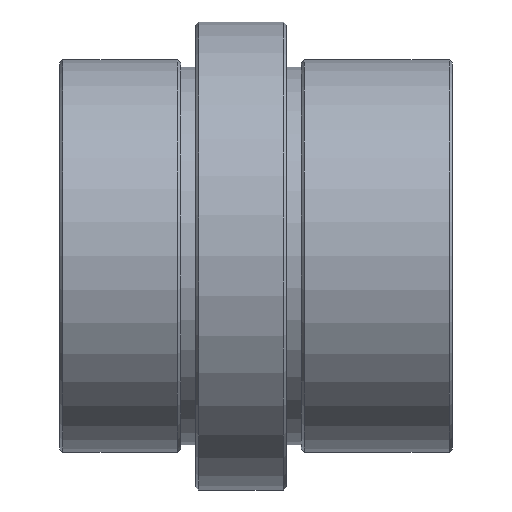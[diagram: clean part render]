
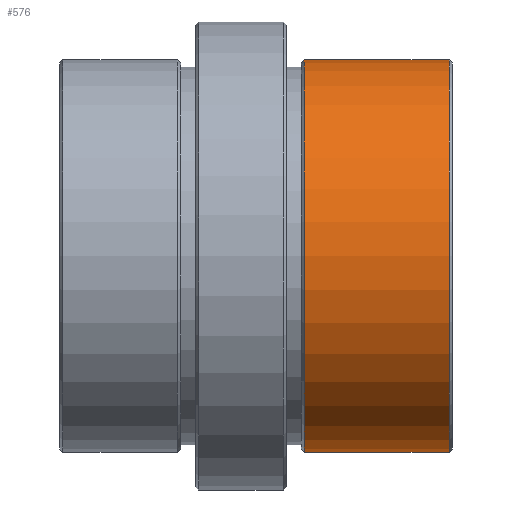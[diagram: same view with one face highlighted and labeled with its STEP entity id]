
A CAD part, top view. The second image highlights one B-rep face of the part: STEP entity #576.
In plain terms, the highlighted cylindrical face has radius 13 mm (diameter 26 mm), a partial arc.
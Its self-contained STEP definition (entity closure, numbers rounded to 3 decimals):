
#88 = EDGE_LOOP ( 'NONE', ( #328, #279, #280, #273 ) ) ;
#178 = CARTESIAN_POINT ( 'NONE',  ( -9.8, -13., 0. ) ) ;
#185 = CARTESIAN_POINT ( 'NONE',  ( -0.2, 13., 0. ) ) ;
#189 = CARTESIAN_POINT ( 'NONE',  ( -9.8, 13., 0. ) ) ;
#206 = CARTESIAN_POINT ( 'NONE',  ( -0.2, -13., 0. ) ) ;
#273 = ORIENTED_EDGE ( 'NONE', *, *, #518, .F. ) ;
#279 = ORIENTED_EDGE ( 'NONE', *, *, #519, .T. ) ;
#280 = ORIENTED_EDGE ( 'NONE', *, *, #529, .T. ) ;
#308 = VERTEX_POINT ( 'NONE', #206 ) ;
#325 = VERTEX_POINT ( 'NONE', #189 ) ;
#328 = ORIENTED_EDGE ( 'NONE', *, *, #533, .T. ) ;
#334 = VERTEX_POINT ( 'NONE', #185 ) ;
#354 = VERTEX_POINT ( 'NONE', #178 ) ;
#392 = CIRCLE ( 'NONE', #402, 13. ) ;
#402 = AXIS2_PLACEMENT_3D ( 'NONE', #747, #748, #749 ) ;
#412 = CARTESIAN_POINT ( 'NONE',  ( 0., -13., 0. ) ) ;
#414 = DIRECTION ( 'NONE',  ( 1., 0., 0. ) ) ;
#417 = AXIS2_PLACEMENT_3D ( 'NONE', #881, #877, #883 ) ;
#518 = EDGE_CURVE ( 'NONE', #325, #334, #554, .T. ) ;
#519 = EDGE_CURVE ( 'NONE', #354, #308, #573, .T. ) ;
#529 = EDGE_CURVE ( 'NONE', #308, #334, #703, .T. ) ;
#533 = EDGE_CURVE ( 'NONE', #325, #354, #392, .T. ) ;
#552 = DIRECTION ( 'NONE',  ( 1., 0., 0. ) ) ;
#553 = CARTESIAN_POINT ( 'NONE',  ( 0., 13., 0. ) ) ;
#554 = LINE ( 'NONE', #553, #675 ) ;
#573 = LINE ( 'NONE', #412, #685 ) ;
#576 = ADVANCED_FACE ( 'NONE', ( #880 ), #879, .T. ) ;
#655 = AXIS2_PLACEMENT_3D ( 'NONE', #734, #735, #736 ) ;
#675 = VECTOR ( 'NONE', #552, 1000. ) ;
#685 = VECTOR ( 'NONE', #414, 1000. ) ;
#703 = CIRCLE ( 'NONE', #655, 13. ) ;
#734 = CARTESIAN_POINT ( 'NONE',  ( -0.2, 0., 0. ) ) ;
#735 = DIRECTION ( 'NONE',  ( -1., 0., 0. ) ) ;
#736 = DIRECTION ( 'NONE',  ( 0., 1., 0. ) ) ;
#747 = CARTESIAN_POINT ( 'NONE',  ( -9.8, 0., 0. ) ) ;
#748 = DIRECTION ( 'NONE',  ( 1., 0., 0. ) ) ;
#749 = DIRECTION ( 'NONE',  ( 0., -1., 0. ) ) ;
#877 = DIRECTION ( 'NONE',  ( 1., 0., 0. ) ) ;
#879 = CYLINDRICAL_SURFACE ( 'NONE', #417, 13. ) ;
#880 = FACE_OUTER_BOUND ( 'NONE', #88, .T. ) ;
#881 = CARTESIAN_POINT ( 'NONE',  ( 0., 0., 0. ) ) ;
#883 = DIRECTION ( 'NONE',  ( 0., 1., 0. ) ) ;
